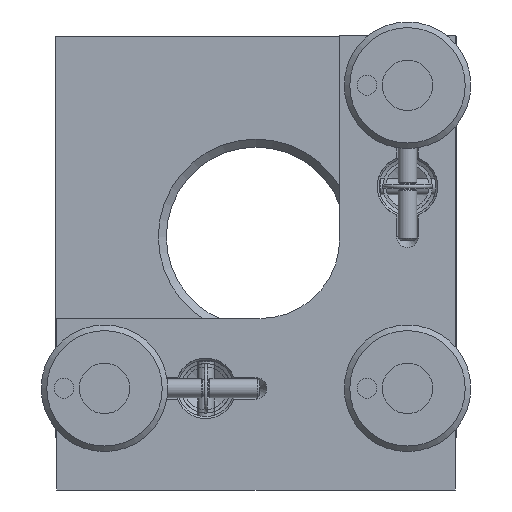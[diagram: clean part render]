
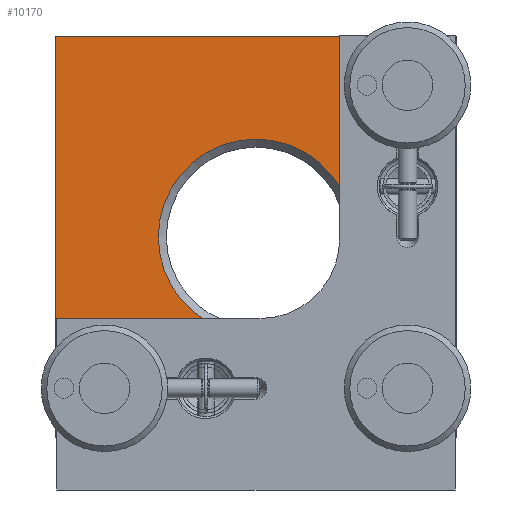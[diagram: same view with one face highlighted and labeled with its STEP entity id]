
A CAD part, front view. The second image highlights one B-rep face of the part: STEP entity #10170.
In plain terms, the highlighted planar face has unit normal (0, -1, 0).
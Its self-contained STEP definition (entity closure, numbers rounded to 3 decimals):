
#10170=ADVANCED_FACE('', (#10180,#10190,#10200,#10210,#10220,#10230,
#10240), #10250, .T.);
#34230=AXIS2_PLACEMENT_3D('Ax2Pl3d', #34240, #34250, #34260);
#34310=AXIS2_PLACEMENT_3D('Ax2Pl3d', #34320, #34330, #34340);
#34350=AXIS2_PLACEMENT_3D('Ax2Pl3d', #34360, #34370, #34380);
#34390=AXIS2_PLACEMENT_3D('Ax2Pl3d', #34400, #34410, #34420);
#34430=AXIS2_PLACEMENT_3D('Ax2Pl3d', #34440, #34450, #34460);
#34470=AXIS2_PLACEMENT_3D('Ax2Pl3d', #34480, #34490, #34500);
#34510=AXIS2_PLACEMENT_3D('Ax2Pl3d', #34520, #34530, #34540);
#34550=AXIS2_PLACEMENT_3D('Ax2Pl3d', #34560, #34570, #34580);
#34590=AXIS2_PLACEMENT_3D('Ax2Pl3d', #34600, #34610, #34620);
#34630=AXIS2_PLACEMENT_3D('Ax2Pl3d', #34640, #34650, #34660);
#34670=AXIS2_PLACEMENT_3D('Ax2Pl3d', #34680, #34690, #34700);
#34710=AXIS2_PLACEMENT_3D('Ax2Pl3d', #34720, #34730, #34740);
#34240=CARTESIAN_POINT('HicPkt', (-1472.68,4359.821,
-1502.221));
#55210=CARTESIAN_POINT('', (-1472.68,4359.821,
-1489.971));
#34320=CARTESIAN_POINT('HicPkt', (-1447.53,4359.821,
-1527.371));
#55220=CARTESIAN_POINT('', (-1447.53,4359.821,-1527.371)
);
#55230=CARTESIAN_POINT('', (-1497.83,4359.821,-1527.371)
);
#55240=CARTESIAN_POINT('', (-1447.53,4359.821,-1527.371)
);
#55250=CARTESIAN_POINT('', (-1447.53,4359.821,-1477.071)
);
#55260=CARTESIAN_POINT('', (-1447.53,4359.821,-1477.071)
);
#55270=CARTESIAN_POINT('', (-1497.83,4359.821,-1477.071)
);
#55280=CARTESIAN_POINT('', (-1497.83,4359.821,-1477.071)
);
#55290=CARTESIAN_POINT('', (-1497.83,4359.821,-1527.371)
);
#34360=CARTESIAN_POINT('HicPkt', (-1453.68,4359.821,
-1521.221));
#55300=CARTESIAN_POINT('', (-1453.68,4359.821,-1518.857)
);
#34400=CARTESIAN_POINT('HicPkt', (-1478.98,4359.821,
-1521.221));
#55310=CARTESIAN_POINT('', (-1478.98,4359.821,-1517.071)
);
#34440=CARTESIAN_POINT('HicPkt', (-1453.68,4359.821,
-1495.921));
#55320=CARTESIAN_POINT('', (-1453.68,4359.821,-1491.771)
);
#34480=CARTESIAN_POINT('HicPkt', (-1453.68,4359.821,
-1483.221));
#55330=CARTESIAN_POINT('', (-1453.68,4359.821,-1479.971)
);
#55340=CARTESIAN_POINT('', (-1495.39,4359.821,-1516.901)
);
#55350=CARTESIAN_POINT('', (-1487.97,4359.821,-1516.901)
);
#55360=CARTESIAN_POINT('', (-1495.39,4359.821,-1516.901)
);
#34520=CARTESIAN_POINT('HicPkt', (-1487.97,4359.821,
-1518.091));
#55370=CARTESIAN_POINT('', (-1487.9,4359.821,-1519.279))
;
#34560=CARTESIAN_POINT('HicPkt', (-1491.68,4359.821,
-1521.221));
#55380=CARTESIAN_POINT('', (-1487.9,4359.821,-1523.163)
);
#34600=CARTESIAN_POINT('HicPkt', (-1487.97,4359.821,
-1524.351));
#55390=CARTESIAN_POINT('', (-1487.97,4359.821,-1525.541)
);
#55400=CARTESIAN_POINT('', (-1487.97,4359.821,-1525.541)
);
#55410=CARTESIAN_POINT('', (-1495.39,4359.821,-1525.541)
);
#34640=CARTESIAN_POINT('HicPkt', (-1495.39,4359.821,
-1524.351));
#55420=CARTESIAN_POINT('', (-1495.461,4359.821,-1523.163)
);
#34680=CARTESIAN_POINT('HicPkt', (-1491.68,4359.821,
-1521.221));
#55430=CARTESIAN_POINT('', (-1495.461,4359.821,-1519.279))
;
#34720=CARTESIAN_POINT('HicPkt', (-1495.39,4359.821,
-1518.091));
#58390=CIRCLE('Circle', #34230, 12.25);
#58400=CIRCLE('Circle', #34350, 2.364);
#58410=CIRCLE('Circle', #34390, 4.15);
#58420=CIRCLE('Circle', #34430, 4.15);
#58430=CIRCLE('Circle', #34470, 3.25);
#58440=CIRCLE('Circle', #34510, 1.19);
#58450=CIRCLE('Circle', #34550, 4.25);
#58460=CIRCLE('Circle', #34590, 1.19);
#58470=CIRCLE('Circle', #34630, 1.19);
#58480=CIRCLE('Circle', #34670, 4.25);
#58490=CIRCLE('Circle', #34710, 1.19);
#34250=DIRECTION('Axis', (0.,1.,0.))
;
#34260=DIRECTION('RefDirection', (0.,
0.,-1.));
#34330=DIRECTION('Axis', (0.,-1.,
0.));
#34340=DIRECTION('RefDirection', (0.,
0.,-1.));
#77210=DIRECTION('', (1.,0.,0.));
#77220=DIRECTION('', (0.,0.,1.));
#77230=DIRECTION('', (-1.,0.,0.));
#77240=DIRECTION('', (0.,0.,-1.));
#34370=DIRECTION('Axis', (0.,-1.,
0.));
#34380=DIRECTION('RefDirection', (0.,
0.,-1.));
#34410=DIRECTION('Axis', (0.,-1.,
0.));
#34420=DIRECTION('RefDirection', (0.,
0.,-1.));
#34450=DIRECTION('Axis', (0.,-1.,
0.));
#34460=DIRECTION('RefDirection', (0.,
0.,-1.));
#34490=DIRECTION('Axis', (0.,-1.,
0.));
#34500=DIRECTION('RefDirection', (0.,
0.,-1.));
#77250=DIRECTION('', (-1.,0.,0.));
#34530=DIRECTION('Axis', (0.,-1.,
0.));
#34540=DIRECTION('RefDirection', (0.,
0.,-1.));
#34570=DIRECTION('Axis', (0.,-1.,
0.));
#34580=DIRECTION('RefDirection', (0.,
0.,-1.));
#34610=DIRECTION('Axis', (0.,-1.,
0.));
#34620=DIRECTION('RefDirection', (0.,
0.,-1.));
#77260=DIRECTION('', (1.,0.,0.));
#34650=DIRECTION('Axis', (0.,-1.,
0.));
#34660=DIRECTION('RefDirection', (0.,
0.,-1.));
#34690=DIRECTION('Axis', (0.,-1.,
0.));
#34700=DIRECTION('RefDirection', (0.,
0.,-1.));
#34730=DIRECTION('Axis', (0.,-1.,
0.));
#34740=DIRECTION('RefDirection', (0.,
0.,-1.));
#84810=EDGE_CURVE('', #84820, #84820, #58390, .T.);
#84830=EDGE_CURVE('', #84840, #84850, #84860, .T.);
#84870=EDGE_CURVE('', #84850, #84880, #84890, .T.);
#84900=EDGE_CURVE('', #84880, #84910, #84920, .T.);
#84930=EDGE_CURVE('', #84910, #84840, #84940, .T.);
#84950=EDGE_CURVE('', #84960, #84960, #58400, .T.);
#84970=EDGE_CURVE('', #84980, #84980, #58410, .T.);
#84990=EDGE_CURVE('', #85000, #85000, #58420, .T.);
#85010=EDGE_CURVE('', #85020, #85020, #58430, .T.);
#85030=EDGE_CURVE('', #85040, #85050, #85060, .T.);
#85070=EDGE_CURVE('', #85080, #85040, #58440, .T.);
#85090=EDGE_CURVE('', #85100, #85080, #58450, .T.);
#85110=EDGE_CURVE('', #85120, #85100, #58460, .T.);
#85130=EDGE_CURVE('', #85140, #85120, #85150, .T.);
#85160=EDGE_CURVE('', #85170, #85140, #58470, .T.);
#85180=EDGE_CURVE('', #85190, #85170, #58480, .T.);
#85200=EDGE_CURVE('', #85050, #85190, #58490, .T.);
#97580=EDGE_LOOP('Edge_loop', (#97590,#97600,#97610,#97620));
#97630=EDGE_LOOP('Edge_loop', (#97640));
#97650=EDGE_LOOP('Edge_loop', (#97660));
#97670=EDGE_LOOP('Edge_loop', (#97680));
#97690=EDGE_LOOP('Edge_loop', (#97700));
#97710=EDGE_LOOP('Edge_loop', (#97720));
#97730=EDGE_LOOP('Edge_loop', (#97740,#97750,#97760,#97770,#97780,
#97790,#97800,#97810));
#10190=FACE_BOUND('', #97630, .T.);
#10200=FACE_BOUND('', #97650, .T.);
#10210=FACE_BOUND('', #97670, .T.);
#10220=FACE_BOUND('', #97690, .T.);
#10230=FACE_BOUND('', #97710, .T.);
#10240=FACE_BOUND('', #97730, .T.);
#10180=FACE_OUTER_BOUND('Face_outer_bound', #97580, .T.);
#84860=LINE('Line', #55220, #110000);
#84890=LINE('Line', #55250, #110010);
#84920=LINE('Line', #55270, #110020);
#84940=LINE('Line', #55290, #110030);
#85060=LINE('Line', #55340, #110040);
#85150=LINE('Line', #55400, #110050);
#97590=ORIENTED_EDGE('', *, *, #84830, .T.);
#97600=ORIENTED_EDGE('', *, *, #84870, .T.);
#97610=ORIENTED_EDGE('', *, *, #84900, .T.);
#97620=ORIENTED_EDGE('', *, *, #84930, .T.);
#97640=ORIENTED_EDGE('', *, *, #84810, .T.);
#97660=ORIENTED_EDGE('', *, *, #84950, .F.);
#97680=ORIENTED_EDGE('', *, *, #84970, .F.);
#97700=ORIENTED_EDGE('', *, *, #84990, .F.);
#97720=ORIENTED_EDGE('', *, *, #85010, .F.);
#97740=ORIENTED_EDGE('', *, *, #85030, .F.);
#97750=ORIENTED_EDGE('', *, *, #85070, .F.);
#97760=ORIENTED_EDGE('', *, *, #85090, .F.);
#97770=ORIENTED_EDGE('', *, *, #85110, .F.);
#97780=ORIENTED_EDGE('', *, *, #85130, .F.);
#97790=ORIENTED_EDGE('', *, *, #85160, .F.);
#97800=ORIENTED_EDGE('', *, *, #85180, .F.);
#97810=ORIENTED_EDGE('', *, *, #85200, .F.);
#10250=PLANE('Plane', #34310);
#110000=VECTOR('', #77210, 50.3);
#110010=VECTOR('', #77220, 50.3);
#110020=VECTOR('', #77230, 50.3);
#110030=VECTOR('', #77240, 50.3);
#110040=VECTOR('', #77250, 7.42);
#110050=VECTOR('', #77260, 7.42);
#84820=VERTEX_POINT('', #55210);
#84840=VERTEX_POINT('', #55230);
#84850=VERTEX_POINT('', #55240);
#84880=VERTEX_POINT('', #55260);
#84910=VERTEX_POINT('', #55280);
#84960=VERTEX_POINT('', #55300);
#84980=VERTEX_POINT('', #55310);
#85000=VERTEX_POINT('', #55320);
#85020=VERTEX_POINT('', #55330);
#85040=VERTEX_POINT('', #55350);
#85050=VERTEX_POINT('', #55360);
#85080=VERTEX_POINT('', #55370);
#85100=VERTEX_POINT('', #55380);
#85120=VERTEX_POINT('', #55390);
#85140=VERTEX_POINT('', #55410);
#85170=VERTEX_POINT('', #55420);
#85190=VERTEX_POINT('', #55430);
